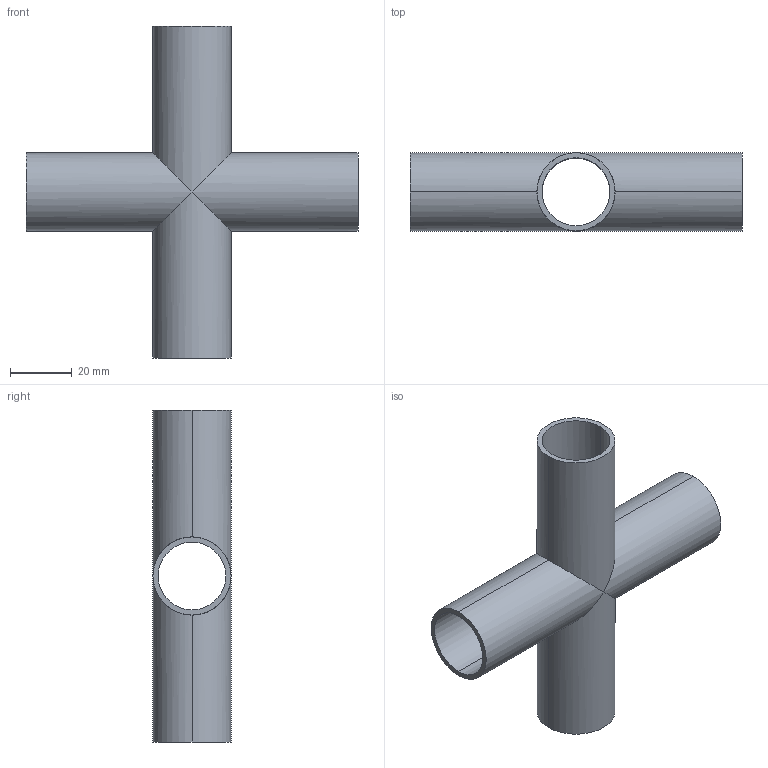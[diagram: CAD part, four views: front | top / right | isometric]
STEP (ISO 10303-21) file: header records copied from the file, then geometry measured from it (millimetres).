
FILE_DESCRIPTION (( 'STEP AP214' ), '1' );
FILE_NAME ('TE9WWWW6L1.0-...STEP', '2016-05-22T04:55:28', ( 'eran' ), ( '' ), 'SwSTEP 2.0', 'SolidWorks 2016', '' );
FILE_SCHEMA (( 'AUTOMOTIVE_DESIGN' ));
Length unit declared in the file: millimetre
Products named in the file (1): TE9WWWW6L1.0-..
Bounding box: 107.95 x 25.4 x 107.95 mm (x, y, z)
Volume: 22863.9 mm3; surface area: 28175.3 mm2
Topology: 1 solids, 1 shells, 20 faces, 48 edges, 28 vertices
Faces by surface type: cylinder 16, plane 4
Entity records: 618 total; most frequent: CARTESIAN_POINT 145, ORIENTED_EDGE 96, DIRECTION 90, EDGE_CURVE 48, AXIS2_PLACEMENT_3D 37, VERTEX_POINT 28, EDGE_LOOP 24, ADVANCED_FACE 20
